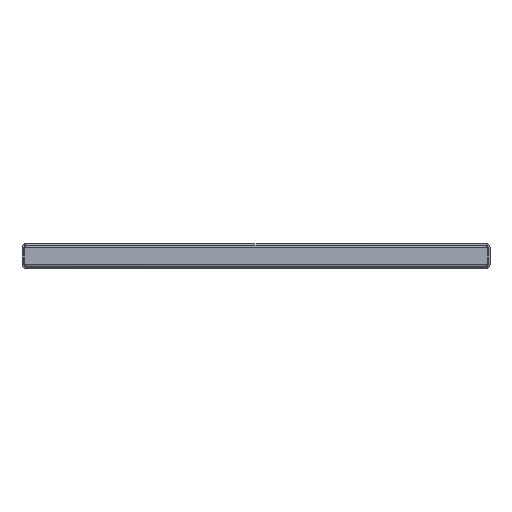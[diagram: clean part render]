
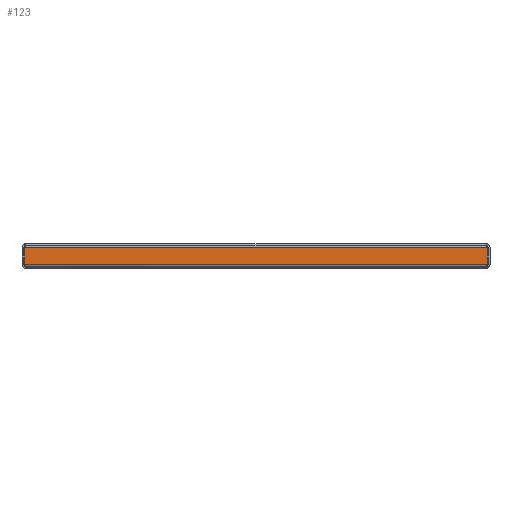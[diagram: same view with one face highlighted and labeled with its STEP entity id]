
A CAD part, front view. The second image highlights one B-rep face of the part: STEP entity #123.
In plain terms, the highlighted planar face has unit normal (0, -1, 0).
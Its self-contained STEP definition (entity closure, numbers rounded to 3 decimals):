
#123=ADVANCED_FACE('',(#1163),#1165,.F.);
#1163=FACE_BOUND('',#1164,.T.);
#1164=EDGE_LOOP('',(#2189,#2190,#2191,#2192));
#1165=PLANE('',#1166);
#1166=AXIS2_PLACEMENT_3D('',#1167,#1168,#1169);
#1167=CARTESIAN_POINT('',(0.,-766.5,0.));
#1168=DIRECTION('',(0.,1.,0.));
#1169=DIRECTION('',(0.,0.,1.));
#2189=ORIENTED_EDGE('',*,*,#2627,.F.);
#2190=ORIENTED_EDGE('',*,*,#2629,.F.);
#2191=ORIENTED_EDGE('',*,*,#2630,.F.);
#2192=ORIENTED_EDGE('',*,*,#2631,.F.);
#2627=EDGE_CURVE('',#3044,#3038,#3047,.T.);
#2629=EDGE_CURVE('',#3049,#3044,#3050,.T.);
#2630=EDGE_CURVE('',#3051,#3049,#3052,.T.);
#2631=EDGE_CURVE('',#3038,#3051,#3053,.T.);
#3038=VERTEX_POINT('',#4568);
#3044=VERTEX_POINT('',#4741);
#3047=LINE('',#4803,#4804);
#3049=VERTEX_POINT('',#4809);
#3050=LINE('',#4810,#4811);
#3051=VERTEX_POINT('',#4813);
#3052=LINE('',#4814,#4815);
#3053=LINE('',#4817,#4818);
#4568=CARTESIAN_POINT('',(236.823,-766.5,-4.));
#4741=CARTESIAN_POINT('',(-236.823,-766.5,-4.));
#4803=CARTESIAN_POINT('',(-236.823,-766.5,-4.));
#4804=VECTOR('',#4805,1.);
#4805=DIRECTION('',(1.,0.,0.));
#4809=CARTESIAN_POINT('',(-236.823,-766.5,-21.));
#4810=CARTESIAN_POINT('',(-236.823,-766.5,-21.));
#4811=VECTOR('',#4812,1.);
#4812=DIRECTION('',(0.,0.,1.));
#4813=CARTESIAN_POINT('',(236.823,-766.5,-21.));
#4814=CARTESIAN_POINT('',(236.823,-766.5,-21.));
#4815=VECTOR('',#4816,1.);
#4816=DIRECTION('',(-1.,0.,0.));
#4817=CARTESIAN_POINT('',(236.823,-766.5,-4.));
#4818=VECTOR('',#4819,1.);
#4819=DIRECTION('',(0.,0.,-1.));
